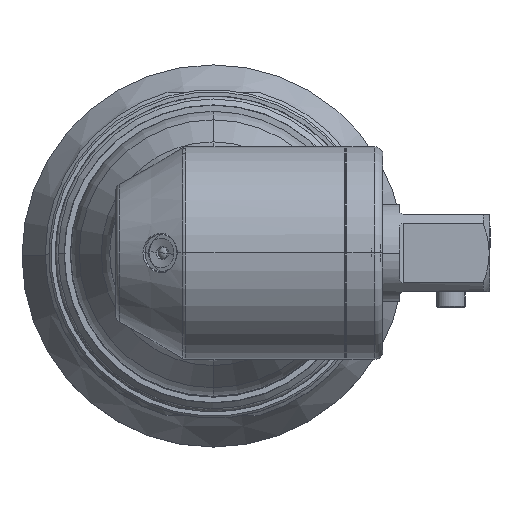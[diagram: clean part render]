
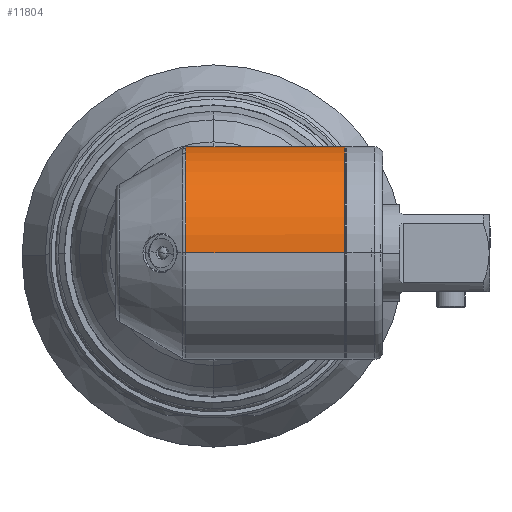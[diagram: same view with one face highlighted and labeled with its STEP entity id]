
A CAD part, top view. The second image highlights one B-rep face of the part: STEP entity #11804.
In plain terms, the highlighted cylindrical face has radius 13.081 mm (diameter 26.162 mm), a partial arc.
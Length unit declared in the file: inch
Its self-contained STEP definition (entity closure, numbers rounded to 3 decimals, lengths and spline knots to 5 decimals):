
#1150 = AXIS2_PLACEMENT_3D ( 'NONE', #34159, #41557, #55309 ) ;
#2219 = CARTESIAN_POINT ( 'NONE',  ( 0.41763, 0.30895, 1.69553 ) ) ;
#2478 = CARTESIAN_POINT ( 'NONE',  ( 0.09307, 0.49313, 1.95942 ) ) ;
#2722 = CARTESIAN_POINT ( 'NONE',  ( -0.13196, 0.48505, 1.93494 ) ) ;
#3499 = ORIENTED_EDGE ( 'NONE', *, *, #45164, .T. ) ;
#3688 = VECTOR ( 'NONE', #35884, 39.37008 ) ;
#7896 = CARTESIAN_POINT ( 'NONE',  ( 0.53, 0., 1.593 ) ) ;
#8145 = CARTESIAN_POINT ( 'NONE',  ( 0.37933, 0.35025, 1.73002 ) ) ;
#8416 = CARTESIAN_POINT ( 'NONE',  ( 0.06351, 0.49732, 1.97415 ) ) ;
#11449 = DIRECTION ( 'NONE',  ( 1., 0., 0. ) ) ;
#11804 = ADVANCED_FACE ( 'NONE', ( #68402 ), #53967, .T. ) ;
#13831 = CARTESIAN_POINT ( 'NONE',  ( 0.52842, 0.0444, 1.59445 ) ) ;
#14074 = CARTESIAN_POINT ( 'NONE',  ( 0.33778, 0.38634, 1.76703 ) ) ;
#14310 = CARTESIAN_POINT ( 'NONE',  ( 0.03184, 0.50003, 1.98472 ) ) ;
#14422 = VERTEX_POINT ( 'NONE', #69364 ) ;
#19648 = CARTESIAN_POINT ( 'NONE',  ( 0.51777, 0.10912, 1.60423 ) ) ;
#19884 = CARTESIAN_POINT ( 'NONE',  ( 0.27869, 0.42739, 1.8188 ) ) ;
#20120 = CARTESIAN_POINT ( 'NONE',  ( -0.00153, 0.50093, 1.98845 ) ) ;
#20603 = CIRCLE ( 'NONE', #41293, 0.515 ) ;
#24733 = CARTESIAN_POINT ( 'NONE',  ( -0.13196, 0.48505, 1.93494 ) ) ;
#25403 = CARTESIAN_POINT ( 'NONE',  ( 0.49866, 0.17091, 1.62175 ) ) ;
#25650 = CARTESIAN_POINT ( 'NONE',  ( 0.19909, 0.46445, 1.885 ) ) ;
#25892 = CARTESIAN_POINT ( 'NONE',  ( -0.03452, 0.49986, 1.98401 ) ) ;
#26944 = DIRECTION ( 'NONE',  ( -1., 0., 0. ) ) ;
#28416 = VECTOR ( 'NONE', #26944, 39.37008 ) ;
#30682 = CARTESIAN_POINT ( 'NONE',  ( 0.6375, 0., 2.108 ) ) ;
#31242 = CARTESIAN_POINT ( 'NONE',  ( 0.47286, 0.22707, 1.64534 ) ) ;
#31446 = CARTESIAN_POINT ( 'NONE',  ( 0.53, 0., 1.593 ) ) ;
#31475 = CARTESIAN_POINT ( 'NONE',  ( 0.14799, 0.48121, 1.924 ) ) ;
#31709 = CARTESIAN_POINT ( 'NONE',  ( -0.06594, 0.49702, 1.97303 ) ) ;
#32204 = EDGE_CURVE ( 'NONE', #49487, #56171, #68182, .T. ) ;
#33011 = CARTESIAN_POINT ( 'NONE',  ( 0.6375, 0., 1.593 ) ) ;
#34159 = CARTESIAN_POINT ( 'NONE',  ( 0.6375, 0., 2.108 ) ) ;
#34585 = LINE ( 'NONE', #70448, #3688 ) ;
#35265 = ORIENTED_EDGE ( 'NONE', *, *, #49161, .T. ) ;
#35884 = DIRECTION ( 'NONE',  ( -1., 0., 0. ) ) ;
#36466 = DIRECTION ( 'NONE',  ( 0., 0., 1. ) ) ;
#36515 = CARTESIAN_POINT ( 'NONE',  ( 0.53, 0.02239, 1.593 ) ) ;
#36987 = CARTESIAN_POINT ( 'NONE',  ( 0.44119, 0.27817, 1.67419 ) ) ;
#37256 = CARTESIAN_POINT ( 'NONE',  ( 0.10251, 0.49145, 1.95393 ) ) ;
#37322 = ORIENTED_EDGE ( 'NONE', *, *, #42877, .T. ) ;
#37494 = CARTESIAN_POINT ( 'NONE',  ( -0.11396, 0.48943, 1.9472 ) ) ;
#41293 = AXIS2_PLACEMENT_3D ( 'NONE', #45978, #11449, #51716 ) ;
#41557 = DIRECTION ( 'NONE',  ( -1., 0., 0. ) ) ;
#41996 = VERTEX_POINT ( 'NONE', #24733 ) ;
#42776 = CARTESIAN_POINT ( 'NONE',  ( 0.40523, 0.32331, 1.70673 ) ) ;
#42877 = EDGE_CURVE ( 'NONE', #56171, #46091, #34585, .T. ) ;
#43009 = CARTESIAN_POINT ( 'NONE',  ( 0.07359, 0.49606, 1.96952 ) ) ;
#43024 = EDGE_LOOP ( 'NONE', ( #59947, #37322, #3499, #35265, #73077 ) ) ;
#44584 = CARTESIAN_POINT ( 'NONE',  ( 0.6375, 0., 2.623 ) ) ;
#45164 = EDGE_CURVE ( 'NONE', #46091, #41996, #59415, .T. ) ;
#45978 = CARTESIAN_POINT ( 'NONE',  ( -0.13196, 0., 2.108 ) ) ;
#46091 = VERTEX_POINT ( 'NONE', #31446 ) ;
#48600 = CARTESIAN_POINT ( 'NONE',  ( 0.36583, 0.36282, 1.7421 ) ) ;
#48847 = CARTESIAN_POINT ( 'NONE',  ( 0.04254, 0.49931, 1.98178 ) ) ;
#49161 = EDGE_CURVE ( 'NONE', #41996, #14422, #20603, .T. ) ;
#49487 = VERTEX_POINT ( 'NONE', #60712 ) ;
#51716 = DIRECTION ( 'NONE',  ( 0., 0., 1. ) ) ;
#53967 = CYLINDRICAL_SURFACE ( 'NONE', #1150, 0.515 ) ;
#54042 = CARTESIAN_POINT ( 'NONE',  ( 0.52232, 0.08773, 1.60006 ) ) ;
#54307 = CARTESIAN_POINT ( 'NONE',  ( 0.3232, 0.3973, 1.77991 ) ) ;
#54560 = CARTESIAN_POINT ( 'NONE',  ( 0.00984, 0.50085, 1.98808 ) ) ;
#55309 = DIRECTION ( 'NONE',  ( 0., 0., 1. ) ) ;
#56171 = VERTEX_POINT ( 'NONE', #33011 ) ;
#57228 = AXIS2_PLACEMENT_3D ( 'NONE', #30682, #71008, #36466 ) ;
#59415 = B_SPLINE_CURVE_WITH_KNOTS ( 'NONE', 3,
 ( #7896, #36515, #13831, #54042, #19648, #59858, #25403, #65692, #31242, #71532, #36987, #2219, #42776, #8145, #48600, #14074, #54307, #19884, #60090, #25650, #65944, #31475, #71769, #37256, #2478, #43009, #8416, #48847, #14310, #54560, #20120, #60329, #25892, #66188, #31709, #72007, #37494, #2722 ),
 .UNSPECIFIED., .F., .F.,
 ( 4, 2, 2, 2, 2, 2, 2, 2, 2, 2, 2, 2, 2, 2, 2, 2, 2, 2, 4 ),
 ( 0.02716, 0.02886, 0.03056, 0.03226, 0.03395, 0.03565, 0.03735, 0.03905, 0.04074, 0.04414, 0.04583, 0.04753, 0.04838, 0.04923, 0.05008, 0.05093, 0.05177, 0.05262, 0.05432 ),
 .UNSPECIFIED. ) ;
#59858 = CARTESIAN_POINT ( 'NONE',  ( 0.5059, 0.15085, 1.61512 ) ) ;
#59947 = ORIENTED_EDGE ( 'NONE', *, *, #32204, .T. ) ;
#60090 = CARTESIAN_POINT ( 'NONE',  ( 0.2478, 0.44399, 1.84535 ) ) ;
#60329 = CARTESIAN_POINT ( 'NONE',  ( -0.02359, 0.50044, 1.98639 ) ) ;
#60712 = CARTESIAN_POINT ( 'NONE',  ( 0.6375, 0., 2.623 ) ) ;
#65692 = CARTESIAN_POINT ( 'NONE',  ( 0.48216, 0.20896, 1.63685 ) ) ;
#65944 = CARTESIAN_POINT ( 'NONE',  ( 0.18245, 0.47053, 1.89818 ) ) ;
#66188 = CARTESIAN_POINT ( 'NONE',  ( -0.0558, 0.49814, 1.97728 ) ) ;
#68182 = CIRCLE ( 'NONE', #57228, 0.515 ) ;
#68402 = FACE_OUTER_BOUND ( 'NONE', #43024, .T. ) ;
#69364 = CARTESIAN_POINT ( 'NONE',  ( -0.13196, 0., 2.623 ) ) ;
#69879 = EDGE_CURVE ( 'NONE', #49487, #14422, #74386, .T. ) ;
#70448 = CARTESIAN_POINT ( 'NONE',  ( 0.6375, 0., 1.593 ) ) ;
#71008 = DIRECTION ( 'NONE',  ( -1., 0., 0. ) ) ;
#71532 = CARTESIAN_POINT ( 'NONE',  ( 0.45241, 0.26165, 1.66398 ) ) ;
#71769 = CARTESIAN_POINT ( 'NONE',  ( 0.13022, 0.4858, 1.93663 ) ) ;
#72007 = CARTESIAN_POINT ( 'NONE',  ( -0.09546, 0.49299, 1.95873 ) ) ;
#73077 = ORIENTED_EDGE ( 'NONE', *, *, #69879, .F. ) ;
#74386 = LINE ( 'NONE', #44584, #28416 ) ;
